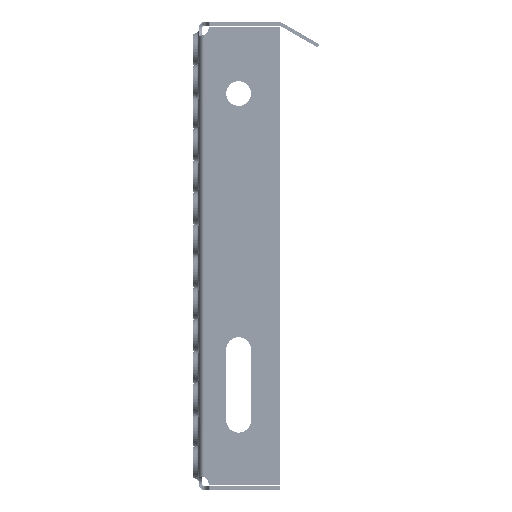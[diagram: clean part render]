
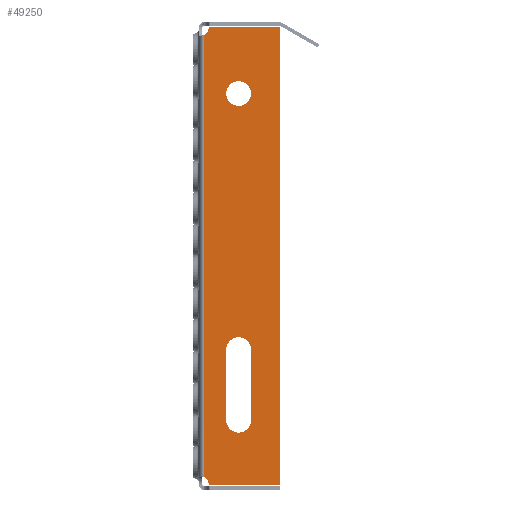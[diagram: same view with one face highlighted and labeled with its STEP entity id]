
A CAD part, left-side view. The second image highlights one B-rep face of the part: STEP entity #49250.
In plain terms, the highlighted planar face has unit normal (-1, 0, 0).
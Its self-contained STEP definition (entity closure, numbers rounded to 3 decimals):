
#604 = EDGE_LOOP ( 'NONE', ( #57107 ) ) ;
#1924 = CARTESIAN_POINT ( 'NONE',  ( -600., -3., -137.67 ) ) ;
#2178 = VERTEX_POINT ( 'NONE', #5619 ) ;
#3111 = LINE ( 'NONE', #39323, #55954 ) ;
#3150 = CARTESIAN_POINT ( 'NONE',  ( -600., -29.5, -105.5 ) ) ;
#3449 = DIRECTION ( 'NONE',  ( -1., 0., 0. ) ) ;
#3729 = LINE ( 'NONE', #61329, #5338 ) ;
#3859 = CARTESIAN_POINT ( 'NONE',  ( -600., 0.5, -147.916 ) ) ;
#4085 = PLANE ( 'NONE',  #32331 ) ;
#4616 = EDGE_CURVE ( 'NONE', #2178, #34462, #40702, .T. ) ;
#5338 = VECTOR ( 'NONE', #30888, 1000. ) ;
#5441 = AXIS2_PLACEMENT_3D ( 'NONE', #41448, #10800, #46639 ) ;
#5619 = CARTESIAN_POINT ( 'NONE',  ( -600., -29.5, -65.5 ) ) ;
#5840 = DIRECTION ( 'NONE',  ( 0., 1., 0. ) ) ;
#7613 = EDGE_CURVE ( 'NONE', #11645, #2178, #3729, .T. ) ;
#7850 = ORIENTED_EDGE ( 'NONE', *, *, #7613, .F. ) ;
#8379 = DIRECTION ( 'NONE',  ( -1., 0., 0. ) ) ;
#8550 = CARTESIAN_POINT ( 'NONE',  ( -600., -46., -142. ) ) ;
#8812 = CARTESIAN_POINT ( 'NONE',  ( -600., -22.5, -65.5 ) ) ;
#8919 = VERTEX_POINT ( 'NONE', #35627 ) ;
#9169 = VERTEX_POINT ( 'NONE', #8550 ) ;
#9602 = FACE_BOUND ( 'NONE', #43123, .T. ) ;
#9726 = CIRCLE ( 'NONE', #30317, 5. ) ;
#10800 = DIRECTION ( 'NONE',  ( 1., 0., 0. ) ) ;
#11482 = ORIENTED_EDGE ( 'NONE', *, *, #18294, .T. ) ;
#11493 = LINE ( 'NONE', #28529, #25144 ) ;
#11537 = CIRCLE ( 'NONE', #20954, 7. ) ;
#11645 = VERTEX_POINT ( 'NONE', #3150 ) ;
#13289 = CARTESIAN_POINT ( 'NONE',  ( -600., -15.5, -105.5 ) ) ;
#13409 = CARTESIAN_POINT ( 'NONE',  ( -600., -5.43, 116.167 ) ) ;
#13924 = ORIENTED_EDGE ( 'NONE', *, *, #40287, .F. ) ;
#13975 = DIRECTION ( 'NONE',  ( 0., 0., -1. ) ) ;
#14251 = CARTESIAN_POINT ( 'NONE',  ( -600., -5.43, -141.167 ) ) ;
#15107 = CARTESIAN_POINT ( 'NONE',  ( -600., -6.416, 116. ) ) ;
#16007 = VERTEX_POINT ( 'NONE', #13289 ) ;
#16584 = VERTEX_POINT ( 'NONE', #21360 ) ;
#16835 = CARTESIAN_POINT ( 'NONE',  ( -600., -15.5, -65.5 ) ) ;
#17204 = AXIS2_PLACEMENT_3D ( 'NONE', #15107, #50934, #20281 ) ;
#18294 = EDGE_CURVE ( 'NONE', #60822, #65457, #9726, .T. ) ;
#19591 = VERTEX_POINT ( 'NONE', #13409 ) ;
#20281 = DIRECTION ( 'NONE',  ( 0., 0., 1. ) ) ;
#20954 = AXIS2_PLACEMENT_3D ( 'NONE', #29634, #65444, #34750 ) ;
#21360 = CARTESIAN_POINT ( 'NONE',  ( -600., -22.5, 72.5 ) ) ;
#21584 = ORIENTED_EDGE ( 'NONE', *, *, #30606, .T. ) ;
#22526 = EDGE_CURVE ( 'NONE', #39277, #19591, #48893, .T. ) ;
#23214 = CIRCLE ( 'NONE', #42898, 7. ) ;
#23230 = ORIENTED_EDGE ( 'NONE', *, *, #59525, .F. ) ;
#24486 = CIRCLE ( 'NONE', #51940, 1. ) ;
#25144 = VECTOR ( 'NONE', #59168, 1000. ) ;
#26296 = ORIENTED_EDGE ( 'NONE', *, *, #22526, .T. ) ;
#26708 = CARTESIAN_POINT ( 'NONE',  ( -600., -46., -142. ) ) ;
#26794 = VECTOR ( 'NONE', #62493, 1000. ) ;
#26987 = CARTESIAN_POINT ( 'NONE',  ( -600., -15.5, -65.5 ) ) ;
#28389 = LINE ( 'NONE', #26708, #26794 ) ;
#28529 = CARTESIAN_POINT ( 'NONE',  ( -600., -3., -147.916 ) ) ;
#29075 = DIRECTION ( 'NONE',  ( 0., -1., 0. ) ) ;
#29266 = DIRECTION ( 'NONE',  ( 1., 0., 0. ) ) ;
#29634 = CARTESIAN_POINT ( 'NONE',  ( -600., -22.5, 79.5 ) ) ;
#29851 = DIRECTION ( 'NONE',  ( 1., 0., 0. ) ) ;
#30317 = AXIS2_PLACEMENT_3D ( 'NONE', #59909, #29266, #65073 ) ;
#30606 = EDGE_CURVE ( 'NONE', #8919, #9169, #3111, .T. ) ;
#30888 = DIRECTION ( 'NONE',  ( 0., 0., 1. ) ) ;
#31616 = CARTESIAN_POINT ( 'NONE',  ( -600., -46., 117. ) ) ;
#31760 = LINE ( 'NONE', #26987, #45384 ) ;
#32228 = VECTOR ( 'NONE', #5840, 1000. ) ;
#32331 = AXIS2_PLACEMENT_3D ( 'NONE', #3859, #29851, #65642 ) ;
#34089 = CARTESIAN_POINT ( 'NONE',  ( -600., -6.416, -141. ) ) ;
#34103 = EDGE_CURVE ( 'NONE', #16584, #16584, #11537, .T. ) ;
#34462 = VERTEX_POINT ( 'NONE', #16835 ) ;
#34750 = DIRECTION ( 'NONE',  ( 0., 0., -1. ) ) ;
#35627 = CARTESIAN_POINT ( 'NONE',  ( -600., -6.416, -142. ) ) ;
#36814 = FACE_OUTER_BOUND ( 'NONE', #42357, .T. ) ;
#38075 = EDGE_CURVE ( 'NONE', #60822, #59337, #11493, .T. ) ;
#39032 = CARTESIAN_POINT ( 'NONE',  ( -600., -22.5, -105.5 ) ) ;
#39233 = DIRECTION ( 'NONE',  ( 0., 0., -1. ) ) ;
#39277 = VERTEX_POINT ( 'NONE', #63958 ) ;
#39323 = CARTESIAN_POINT ( 'NONE',  ( -600., -6.416, -142. ) ) ;
#40287 = EDGE_CURVE ( 'NONE', #16007, #11645, #23214, .T. ) ;
#40702 = CIRCLE ( 'NONE', #56466, 7. ) ;
#41448 = CARTESIAN_POINT ( 'NONE',  ( -600., -0.5, 117. ) ) ;
#42357 = EDGE_LOOP ( 'NONE', ( #55967, #11482, #62992, #21584, #43752, #46448, #26296, #57512 ) ) ;
#42898 = AXIS2_PLACEMENT_3D ( 'NONE', #39032, #8379, #44235 ) ;
#43123 = EDGE_LOOP ( 'NONE', ( #23230, #47882, #7850, #13924 ) ) ;
#43752 = ORIENTED_EDGE ( 'NONE', *, *, #64438, .T. ) ;
#44235 = DIRECTION ( 'NONE',  ( 0., 0., -1. ) ) ;
#44663 = DIRECTION ( 'NONE',  ( -1., 0., 0. ) ) ;
#45384 = VECTOR ( 'NONE', #57596, 1000. ) ;
#45850 = LINE ( 'NONE', #31616, #32228 ) ;
#46011 = CARTESIAN_POINT ( 'NONE',  ( -600., -3., 112.67 ) ) ;
#46448 = ORIENTED_EDGE ( 'NONE', *, *, #61999, .T. ) ;
#46639 = DIRECTION ( 'NONE',  ( 0., 0., -1. ) ) ;
#47264 = EDGE_CURVE ( 'NONE', #65457, #8919, #24486, .T. ) ;
#47457 = CIRCLE ( 'NONE', #5441, 5. ) ;
#47882 = ORIENTED_EDGE ( 'NONE', *, *, #4616, .F. ) ;
#48893 = CIRCLE ( 'NONE', #17204, 1. ) ;
#49250 = ADVANCED_FACE ( 'NONE', ( #36814, #50489, #9602 ), #4085, .F. ) ;
#50489 = FACE_BOUND ( 'NONE', #604, .T. ) ;
#50934 = DIRECTION ( 'NONE',  ( -1., 0., 0. ) ) ;
#51940 = AXIS2_PLACEMENT_3D ( 'NONE', #34089, #3449, #39233 ) ;
#53865 = CARTESIAN_POINT ( 'NONE',  ( -600., -46., 117. ) ) ;
#55954 = VECTOR ( 'NONE', #29075, 1000. ) ;
#55967 = ORIENTED_EDGE ( 'NONE', *, *, #38075, .F. ) ;
#56466 = AXIS2_PLACEMENT_3D ( 'NONE', #8812, #44663, #13975 ) ;
#57107 = ORIENTED_EDGE ( 'NONE', *, *, #34103, .F. ) ;
#57512 = ORIENTED_EDGE ( 'NONE', *, *, #61922, .T. ) ;
#57596 = DIRECTION ( 'NONE',  ( 0., 0., -1. ) ) ;
#59168 = DIRECTION ( 'NONE',  ( 0., 0., 1. ) ) ;
#59337 = VERTEX_POINT ( 'NONE', #46011 ) ;
#59525 = EDGE_CURVE ( 'NONE', #34462, #16007, #31760, .T. ) ;
#59909 = CARTESIAN_POINT ( 'NONE',  ( -600., -0.5, -142. ) ) ;
#60822 = VERTEX_POINT ( 'NONE', #1924 ) ;
#61329 = CARTESIAN_POINT ( 'NONE',  ( -600., -29.5, -65.5 ) ) ;
#61922 = EDGE_CURVE ( 'NONE', #19591, #59337, #47457, .T. ) ;
#61999 = EDGE_CURVE ( 'NONE', #65223, #39277, #45850, .T. ) ;
#62493 = DIRECTION ( 'NONE',  ( 0., 0., 1. ) ) ;
#62992 = ORIENTED_EDGE ( 'NONE', *, *, #47264, .T. ) ;
#63958 = CARTESIAN_POINT ( 'NONE',  ( -600., -6.416, 117. ) ) ;
#64438 = EDGE_CURVE ( 'NONE', #9169, #65223, #28389, .T. ) ;
#65073 = DIRECTION ( 'NONE',  ( 0., 0., -1. ) ) ;
#65223 = VERTEX_POINT ( 'NONE', #53865 ) ;
#65444 = DIRECTION ( 'NONE',  ( -1., 0., 0. ) ) ;
#65457 = VERTEX_POINT ( 'NONE', #14251 ) ;
#65642 = DIRECTION ( 'NONE',  ( 0., 0., -1. ) ) ;
